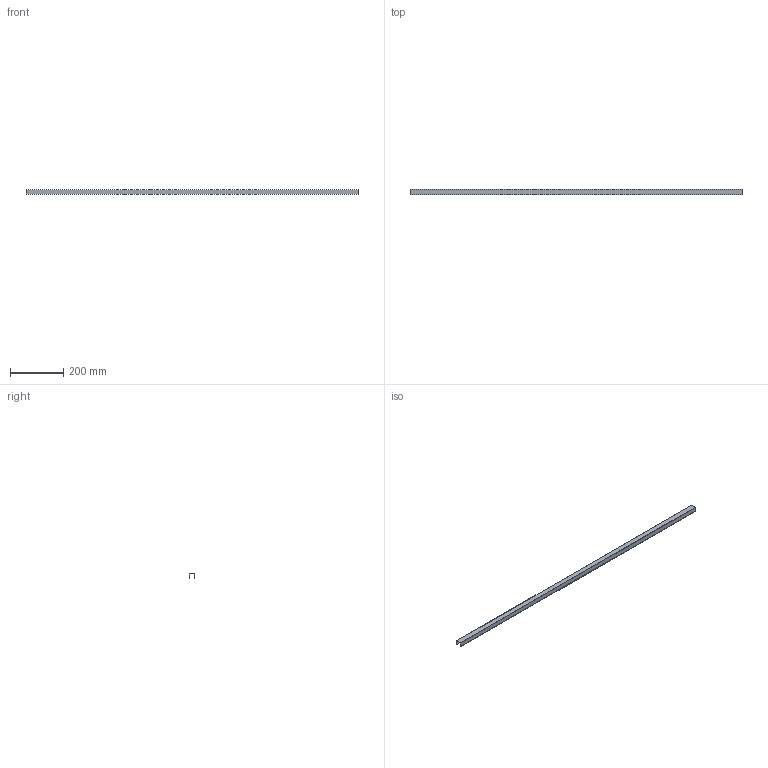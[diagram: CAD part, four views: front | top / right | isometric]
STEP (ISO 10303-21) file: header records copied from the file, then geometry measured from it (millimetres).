
FILE_DESCRIPTION(('STEP AP242'),'1');
FILE_NAME('OPO_65.081.86_volu_schn_3d.stp','2026-01-30T20:52:05',(' '),(' '),'Spatial InterOp 3D',' ',' ');
FILE_SCHEMA(('AP242_MANAGED_MODEL_BASED_3D_ENGINEERING_MIM_LF {1 0 10303 442 1 1 4}'));
Length unit declared in the file: millimetre
Products named in the file (1): 1
Bounding box: 1250 x 22 x 18 mm (x, y, z)
Volume: 70000 mm3; surface area: 142612 mm2
Topology: 1 solids, 1 shells, 56 faces, 273 edges, 348 vertices
Faces by surface type: plane 36, cylinder 20
Entity records: 3727 total; most frequent: DIRECTION 449, CARTESIAN_POINT 429, ORIENTED_EDGE 296, LINE 213, VECTOR 213, STYLED_ITEM 181, PRESENTATION_STYLE_ASSIGNMENT 181, COLOUR_RGB 181
